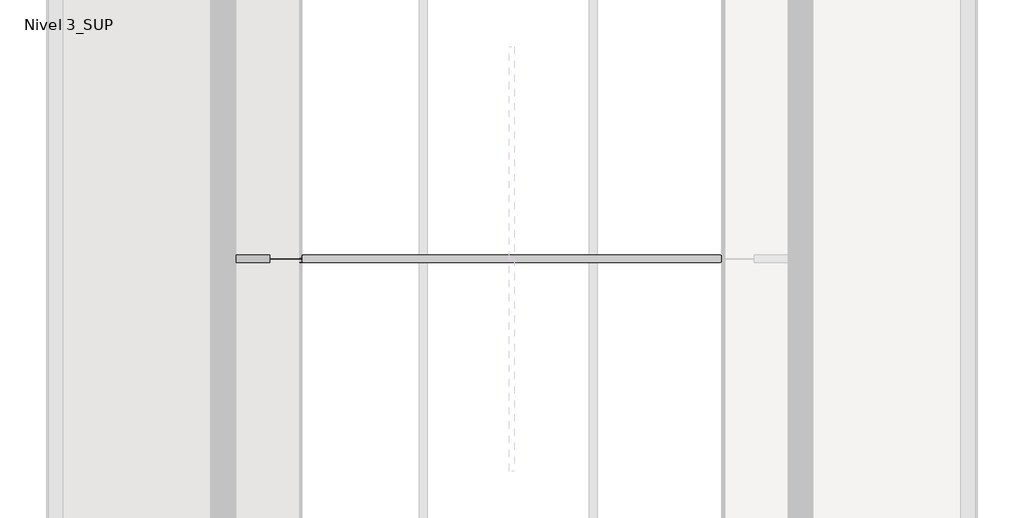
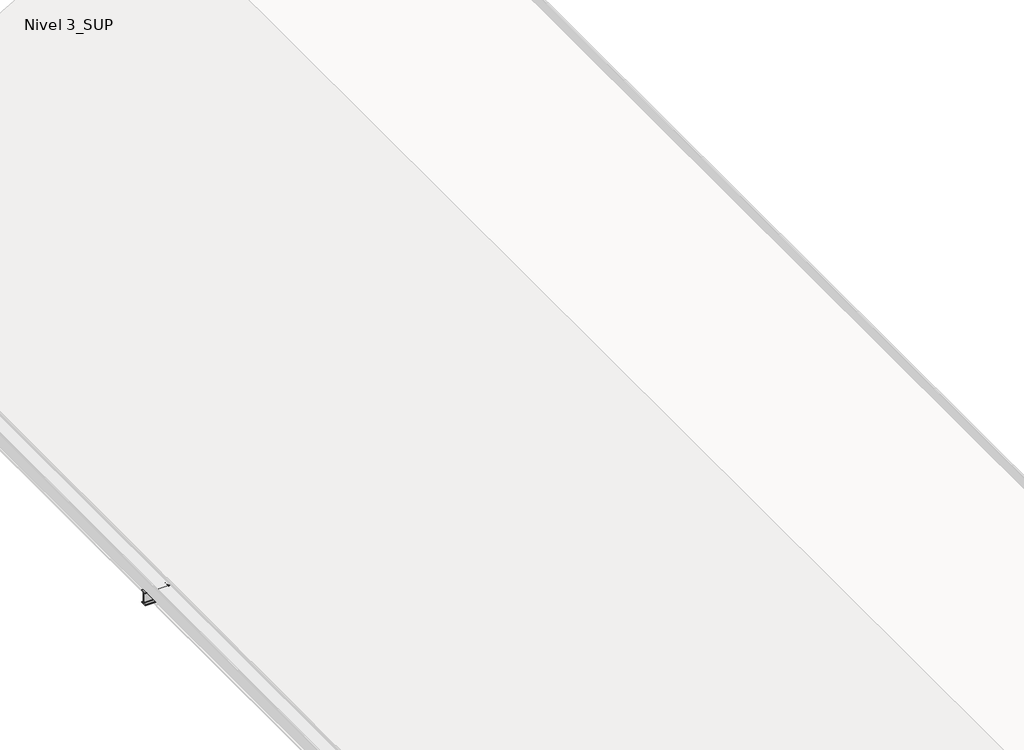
# One storey, part 6 of 10: 2 beams.
"""IFC4 building model written with IfcOpenShell, lengths in millimetres."""

from ifc_helpers import new_model, si_unit, point, frame, frame_2d, origin, place, context, project, spatial, polyline, circle_curve, ellipse_curve, trimmed, segment, composite_curve, outline, extrude, element, save
from ifc_brep_helpers import plane_surface, cylinder_surface, revolved_surface, advanced_brep

model = new_model("IFC4")

# Units and contexts
model_context = context("Model", 3, world=origin())
ifc_project = project(units=[si_unit("LENGTHUNIT", "METRE", prefix="MILLI")], contexts=[model_context])

# Site, building, storey
site = spatial("IfcSite", under=ifc_project)
building = spatial("IfcBuilding", under=site)
storey = spatial("IfcBuildingStorey", under=building, Name="Nivel 3_SUP", Elevation=13230.0)

# Beams
placement = place(None, origin())
element("IfcBeam", 1, ObjectType="IPN - Secciones en I con alas cónicas : IPN 160", at=placement, inside=storey, context=model_context, shape_type="SweptSolid", body=[
    extrude(outline(composite_curve([segment(polyline([(5981.6072273, 13390.0), (5981.6072273, 13386.3950593)]), True, "CONTINUOUS"), segment(trimmed(circle_curve(frame_2d((5977.8072273, 13386.3950593)), 3.8), [point((5981.6072273, 13386.3950593))], [point((5978.3340891, 13382.6317607))], False, "CARTESIAN"), True, "CONTINUOUS"), segment(polyline([(5978.3340891, 13382.6317607), (5953.1837459, 13379.1107126)]), True, "CONTINUOUS"), segment(trimmed(circle_curve(frame_2d((5954.0572273, 13372.8715596)), 6.3), [point((5953.1837459, 13379.1107126))], [point((5947.7572273, 13372.8715596))], True, "CARTESIAN"), True, "CONTINUOUS"), segment(polyline([(5947.7572273, 13372.8715596), (5947.7572273, 13247.1284404)]), True, "CONTINUOUS"), segment(trimmed(circle_curve(frame_2d((5954.0572273, 13247.1284404)), 6.3), [point((5947.7572273, 13247.1284404))], [point((5953.1837459, 13240.8892874))], True, "CARTESIAN"), True, "CONTINUOUS"), segment(polyline([(5953.1837459, 13240.8892874), (5978.3340891, 13237.3682393)]), True, "CONTINUOUS"), segment(trimmed(circle_curve(frame_2d((5977.8072273, 13233.6049407)), 3.8), [point((5978.3340891, 13237.3682393))], [point((5981.6072273, 13233.6049407))], False, "CARTESIAN"), True, "CONTINUOUS"), segment(polyline([(5981.6072273, 13233.6049407), (5981.6072273, 13230.0), (5907.6072273, 13230.0), (5907.6072273, 13233.6049407)]), True, "CONTINUOUS"), segment(trimmed(circle_curve(frame_2d((5911.4072273, 13233.6049407)), 3.8), [point((5907.6072273, 13233.6049407))], [point((5910.8803655, 13237.3682393))], False, "CARTESIAN"), True, "CONTINUOUS"), segment(polyline([(5910.8803655, 13237.3682393), (5936.0307088, 13240.8892874)]), True, "CONTINUOUS"), segment(trimmed(circle_curve(frame_2d((5935.1572273, 13247.1284404)), 6.3), [point((5936.0307088, 13240.8892874))], [point((5941.4572273, 13247.1284404))], True, "CARTESIAN"), True, "CONTINUOUS"), segment(polyline([(5941.4572273, 13247.1284404), (5941.4572273, 13372.8715596)]), True, "CONTINUOUS"), segment(trimmed(circle_curve(frame_2d((5935.1572273, 13372.8715596)), 6.3), [point((5941.4572273, 13372.8715596))], [point((5936.0307088, 13379.1107126))], True, "CARTESIAN"), True, "CONTINUOUS"), segment(polyline([(5936.0307088, 13379.1107126), (5910.8803655, 13382.6317607)]), True, "CONTINUOUS"), segment(trimmed(circle_curve(frame_2d((5911.4072273, 13386.3950593)), 3.8), [point((5910.8803655, 13382.6317607))], [point((5907.6072273, 13386.3950593))], False, "CARTESIAN"), True, "CONTINUOUS"), segment(polyline([(5907.6072273, 13386.3950593), (5907.6072273, 13390.0), (5981.6072273, 13390.0)]), True, "CONTINUOUS")], self_intersect=False)), frame((6033.4837907, 0.0, 0.0), z_axis=(1.0, 0.0, 0.0), x_axis=(0.0, 1.0, 0.0)), (0.0, 0.0, 1.0), 8899.073732),
])
element("IfcBeam", 2, ObjectType="IPN - Secciones en I con alas cónicas : IPN 160", at=placement, inside=storey, context=model_context, shape_type="AdvancedBrep", body=[
    advanced_brep(
    [(6390.9153459, 5907.6072273, 13240.5610738), (6389.1422546, 5907.6072273, 13243.6998227), (6387.2912749, 5910.8803655, 13246.9764506), (6385.5594462, 5936.0307088, 13250.0421559), (6382.4907166, 5941.4572273, 13255.4744601), (6387.2054153, 5941.4572273, 13247.1284404), (6390.7299368, 5936.0307088, 13240.8892874), (6390.9153459, 5933.6863257, 13240.5610738), (6649.0725288, 5907.6072273, 13386.3950593), (6641.7431841, 5907.6072273, 13386.3950593), (6627.4300365, 5910.8803655, 13382.6317607), (6614.038253, 5936.0307088, 13379.1107126), (6590.3085608, 5941.4572273, 13372.8715596), (6391.4963539, 5936.0307088, 13240.8892874), (6402.5409822, 5941.4572273, 13247.1284404), (6625.133057, 5941.4572273, 13372.8715596), (6636.1776853, 5936.0307088, 13379.1107126), (6642.4106895, 5910.8803655, 13382.6317607)],
    [
        (0, 1),
        (1, 2, circle_curve(frame((6389.1422546, 5911.4072273, 13243.6998227), z_axis=(-0.8706797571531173, 0.0, -0.4918503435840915), x_axis=(0.0, 1.0, 0.0)), 3.8)),
        (2, 3),
        (3, 4, circle_curve(frame((6382.4907166, 5935.1572273, 13255.4744601), z_axis=(0.8706797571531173, 0.0, 0.4918503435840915), x_axis=(0.0, 1.0, 0.0)), 6.3)),
        (4, 5),
        (5, 6, ellipse_curve(frame((6387.2054153, 5935.1572273, 13247.1284404), z_axis=(-0.8706797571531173, 0.0, -0.49185034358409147), x_axis=(0.49185034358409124, 0.0, -0.8706797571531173)), 7.2357258, 6.3)),
        (6, 7),
        (7, 0),
        (0, 8),
        (8, 9),
        (9, 1),
        (2, 10),
        (10, 11),
        (11, 3),
        (11, 12, ellipse_curve(frame((6590.3085608, 5935.1572273, 13372.8715596), z_axis=(-0.2542835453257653, 0.0, 0.9671297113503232), x_axis=(0.9671297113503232, 0.0, 0.2542835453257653)), 24.7754922, 6.3)),
        (12, 4),
        (7, 13),
        (13, 14, ellipse_curve(frame((6402.5409822, 5935.1572273, 13247.1284404), z_axis=(0.4918503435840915, 0.0, -0.8706797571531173), x_axis=(0.8706797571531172, 0.0, 0.49185034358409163)), 12.8087742, 6.3)),
        (14, 15),
        (15, 16, ellipse_curve(frame((6625.133057, 5935.1572273, 13372.8715596), z_axis=(0.4918503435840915, 0.0, -0.8706797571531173), x_axis=(0.8706797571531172, 0.0, 0.49185034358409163)), 12.8087742, 6.3)),
        (16, 17),
        (17, 8, ellipse_curve(frame((6649.0725288, 5911.4072273, 13386.3950593), z_axis=(-0.4918503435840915, 0.0, 0.8706797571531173), x_axis=(-0.8706797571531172, 0.0, -0.49185034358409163)), 7.7259273, 3.8)),
        (9, 10, ellipse_curve(frame((6641.7431841, 5911.4072273, 13386.3950593), z_axis=(0.2542835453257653, 0.0, -0.9671297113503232), x_axis=(-0.9671297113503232, 0.0, -0.2542835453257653)), 14.9439477, 3.8)),
        (6, 13),
        (5, 14),
        (17, 10),
        (12, 15),
        (11, 16),
    ],
    [
        plane_surface(frame((6351.5673184, 5944.6072273, 13310.2154543), z_axis=(-0.8706797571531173, 0.0, -0.49185034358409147), x_axis=(-0.49185034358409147, 0.0, 0.8706797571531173))),
        plane_surface(frame((6390.9153459, 5907.6072273, 13240.5610738), z_axis=(0.0, -1.0, 0.0), x_axis=(0.8706797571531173, 0.0, 0.4918503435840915))),
        plane_surface(frame((6386.2427677, 5926.1072273, 13248.8325315), z_axis=(-0.4870999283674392, -0.13864784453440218, 0.862270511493), x_axis=(0.8706797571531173, 0.0, 0.4918503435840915))),
        revolved_surface(polyline([(6611.171018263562, 5941.4572273, 13384.656842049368), (6382.4907166, 5941.4572273, 13255.4744601)]), (6382.4907166, 5935.1572273, 13255.4744601), (0.8706797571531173, 0.0, 0.4918503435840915)),
        plane_surface(frame((6390.9153459, 5981.6072273, 13240.5610738), z_axis=(0.4918503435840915, 0.0, -0.8706797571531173), x_axis=(0.8706797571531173, 0.0, 0.4918503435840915))),
        cylinder_surface(frame((6389.1422546, 5911.4072273, 13243.6998227), z_axis=(-0.8706797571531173, 0.0, -0.4918503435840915), x_axis=(0.0, 1.0, 0.0)), 3.8),
        plane_surface(frame((6033.4837907, 5910.8803655, 13237.3682393), z_axis=(0.0, 0.13864784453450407, -0.9903417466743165), x_axis=(1.0, 0.0, 0.0))),
        cylinder_surface(frame((10483.0206567, 5935.1572273, 13247.1284404), z_axis=(1.0, 0.0, 0.0), x_axis=(0.0, 1.0, 0.0)), 6.3),
        revolved_surface(polyline([(6627.290448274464, 5915.2072273, 13386.3950593), (6656.195919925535, 5915.2072273, 13386.3950593)]), (10483.0206567, 5911.4072273, 13386.3950593), (-1.0, 0.0, 0.0)),
        plane_surface(frame((6033.4837907, 5941.4572273, 13247.1284404), z_axis=(0.0, 1.0, 0.0), x_axis=(1.0, 0.0, 0.0))),
        cylinder_surface(frame((10483.0206567, 5935.1572273, 13372.8715596), z_axis=(1.0, 0.0, 0.0), x_axis=(0.0, 1.0, 0.0)), 6.3),
        plane_surface(frame((6033.4837907, 5936.0307088, 13379.1107126), z_axis=(0.0, 0.13864784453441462, 0.9903417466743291), x_axis=(1.0, 0.0, 0.0))),
    ],
    [
        (0, [[1, 2, 3, 4, 5, 6, 7, 8]]),
        (1, [[-1, 9, 10, 11]]),
        (2, [[-3, 12, 13, 14]]),
        (3, [[-4, -14, 15, 16]]),
        (4, [[-8, 17, 18, 19, 20, 21, 22, -9]]),
        (5, [[-2, -11, 23, -12]]),
        (6, [[24, -17, -7]]),
        (7, [[-24, -6, 25, -18]]),
        (8, [[26, -23, -10, -22]]),
        (9, [[-25, -5, -16, 27, -19]]),
        (10, [[-27, -15, 28, -20]]),
        (11, [[-28, -13, -26, -21]]),
    ],
),
    advanced_brep(
    [(10551.6053728, 5981.6072273, 15590.9508726), (10549.8322815, 5981.6072273, 15594.0896215), (10547.9813018, 5978.3340891, 15597.3662495), (10546.2494731, 5953.1837459, 15600.4319547), (10543.1807435, 5947.7572273, 15605.864259), (10551.6053728, 5947.7572273, 15590.9508726), (10420.8520301, 5978.3340891, 15525.5504349), (10424.3730781, 5953.1837459, 15531.5835105), (10417.0887314, 5981.6072273, 15519.1022796), (10417.0887314, 5981.6072273, 15514.9619045), (10430.6122311, 5947.7572273, 15522.6013815), (10424.3730781, 5953.1837459, 15519.07686), (10420.8520301, 5978.3340891, 15517.0878064), (10430.6122311, 5947.7572273, 15542.2738734)],
    [
        (0, 1),
        (1, 2, circle_curve(frame((10549.8322815, 5977.8072273, 15594.0896215), z_axis=(0.8706797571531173, 0.0, 0.4918503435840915), x_axis=(0.0, 1.0, 0.0)), 3.8)),
        (2, 3),
        (3, 4, circle_curve(frame((10543.1807435, 5954.0572273, 15605.864259), z_axis=(-0.8706797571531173, 0.0, -0.4918503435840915), x_axis=(0.0, 1.0, 0.0)), 6.3)),
        (4, 5),
        (5, 0),
        (2, 6),
        (6, 7),
        (7, 3),
        (1, 8),
        (8, 6, ellipse_curve(frame((10417.0887314, 5977.8072273, 15519.1022796), z_axis=(0.8636695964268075, 0.0, -0.5040583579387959), x_axis=(-0.5040583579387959, 0.0, -0.8636695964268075)), 7.5388096, 3.8)),
        (0, 9),
        (9, 8),
        (5, 10),
        (10, 11, ellipse_curve(frame((10430.6122311, 5954.0572273, 15522.6013815), z_axis=(0.4918503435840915, 0.0, -0.8706797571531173), x_axis=(0.8706797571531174, 0.0, 0.49185034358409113)), 7.2357258, 6.3)),
        (11, 12),
        (12, 9, ellipse_curve(frame((10417.0887314, 5977.8072273, 15514.9619045), z_axis=(-0.4918503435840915, 0.0, 0.8706797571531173), x_axis=(-0.8706797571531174, 0.0, -0.49185034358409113)), 4.3644061, 3.8)),
        (7, 13, ellipse_curve(frame((10430.6122311, 5954.0572273, 15542.2738734), z_axis=(-0.8636695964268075, 0.0, 0.5040583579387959), x_axis=(0.5040583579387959, 0.0, 0.8636695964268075)), 12.4985528, 6.3)),
        (13, 4),
        (6, 12),
        (11, 7),
        (10, 13),
    ],
    [
        plane_surface(frame((10512.2573454, 5944.6072273, 15660.6052532), z_axis=(0.8706797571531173, 0.0, 0.49185034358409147), x_axis=(-0.49185034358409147, 0.0, 0.8706797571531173))),
        plane_surface(frame((6386.2427677, 5963.1072273, 13248.8325315), z_axis=(-0.487099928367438, 0.13864784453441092, 0.8622705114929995), x_axis=(0.8706797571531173, 0.0, 0.4918503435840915))),
        cylinder_surface(frame((6389.1422546, 5977.8072273, 13243.6998227), z_axis=(-0.8706797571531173, 0.0, -0.4918503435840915), x_axis=(0.0, 1.0, 0.0)), 3.8),
        plane_surface(frame((6389.1422546, 5981.6072273, 13243.6998227), z_axis=(0.0, 1.0, 0.0), x_axis=(0.8706797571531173, 0.0, 0.4918503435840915))),
        plane_surface(frame((6390.9153459, 5981.6072273, 13240.5610738), z_axis=(0.4918503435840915, 0.0, -0.8706797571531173), x_axis=(0.8706797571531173, 0.0, 0.4918503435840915))),
        revolved_surface(polyline([(10543.180743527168, 5960.3572273, 15605.8642589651), (10421.213573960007, 5960.3572273, 15536.964535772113)]), (6382.4907166, 5954.0572273, 13255.4744601), (0.8706797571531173, 0.0, 0.4918503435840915)),
        plane_surface(frame((10420.8520301, 5978.3340891, 13390.0), z_axis=(-0.9903417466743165, -0.13864784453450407, 0.0), x_axis=(0.0, 0.0, 1.0))),
        cylinder_surface(frame((10430.6122311, 5954.0572273, 14544.0), z_axis=(0.0, 0.0, 1.0), x_axis=(0.0, -1.0, 0.0)), 6.3),
        plane_surface(frame((10430.6122311, 5947.7572273, 13390.0), z_axis=(0.0, -1.0, 0.0), x_axis=(0.0, 0.0, 1.0))),
        revolved_surface(polyline([(10417.0887314, 5974.0072273, 15512.591238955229), (10417.0887314, 5974.0072273, 15525.61332024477)]), (10417.0887314, 5977.8072273, 14544.0), (0.0, 0.0, -1.0)),
    ],
    [
        (0, [[1, 2, 3, 4, 5, 6]]),
        (1, [[-3, 7, 8, 9]]),
        (2, [[-2, 10, 11, -7]]),
        (3, [[-1, 12, 13, -10]]),
        (4, [[-6, 14, 15, 16, 17, -12]]),
        (5, [[-4, -9, 18, 19]]),
        (6, [[20, -16, 21, -8]]),
        (7, [[-21, -15, 22, -18]]),
        (8, [[-22, -14, -5, -19]]),
        (9, [[-20, -11, -13, -17]]),
    ],
),
    advanced_brep(
    [(6313.9923823, 5981.6072273, 13376.731086), (6312.2192909, 5981.6072273, 13379.8698349), (6323.7703264, 5981.6072273, 13386.3950593), (6331.0996711, 5981.6072273, 13386.3950593), (6317.5751907, 5953.1837459, 13370.3887528), (6315.843362, 5978.3340891, 13373.4544581), (6332.0891402, 5978.3340891, 13382.6317607), (6333.0149153, 5953.1837459, 13379.1107126), (6320.6439202, 5947.7572273, 13364.9564486), (6334.6553508, 5947.7572273, 13372.8715596), (6316.1726436, 5947.7572273, 13372.8715596), (6312.6481221, 5953.1837459, 13379.1107126), (6312.2192909, 5958.6060482, 13379.8698349), (6317.1084871, 5978.3340891, 13382.6317607)],
    [
        (0, 1),
        (1, 2),
        (2, 3),
        (3, 0),
        (4, 5),
        (5, 6),
        (6, 7),
        (7, 4),
        (8, 4, circle_curve(frame((6320.6439202, 5954.0572273, 13364.9564486), z_axis=(-0.8706797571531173, 0.0, -0.4918503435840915), x_axis=(0.0, 1.0, 0.0)), 6.3)),
        (7, 9, ellipse_curve(frame((6334.6553508, 5954.0572273, 13372.8715596), z_axis=(0.967129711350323, 0.0, 0.2542835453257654), x_axis=(-0.25428354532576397, 0.0, 0.9671297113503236)), 6.514121, 6.3)),
        (9, 8),
        (0, 5, circle_curve(frame((6313.9923823, 5977.8072273, 13376.731086), z_axis=(-0.8706797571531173, 0.0, -0.4918503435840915), x_axis=(0.0, 1.0, 0.0)), 3.8)),
        (8, 10),
        (10, 11, ellipse_curve(frame((6316.1726436, 5954.0572273, 13372.8715596), z_axis=(-0.8706797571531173, 0.0, -0.49185034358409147), x_axis=(0.49185034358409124, 0.0, -0.8706797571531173)), 7.2357258, 6.3)),
        (11, 12),
        (12, 1),
        (12, 13),
        (13, 2, ellipse_curve(frame((6323.7703264, 5977.8072273, 13386.3950593), z_axis=(0.4918503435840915, 0.0, -0.8706797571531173), x_axis=(-0.8706797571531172, 0.0, -0.49185034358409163)), 7.7259273, 3.8)),
        (3, 6, ellipse_curve(frame((6331.0996711, 5977.8072273, 13386.3950593), z_axis=(-0.967129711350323, 0.0, -0.2542835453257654), x_axis=(0.25428354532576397, 0.0, -0.9671297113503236)), 3.9291524, 3.8)),
        (6, 13),
        (11, 7),
        (10, 9),
    ],
    [
        plane_surface(frame((6312.2192909, 5981.6072273, 13379.8698349), z_axis=(0.0, 1.0, 0.0), x_axis=(0.8706797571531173, 0.0, 0.4918503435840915))),
        plane_surface(frame((6316.8918692, 5963.1072273, 13371.5983772), z_axis=(0.48709992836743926, 0.13864784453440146, -0.8622705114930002), x_axis=(0.8706797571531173, 0.0, 0.4918503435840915))),
        revolved_surface(polyline([(6336.097574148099, 5960.3572273, 13373.686277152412), (6320.6439202, 5960.3572273, 13364.9564486)]), (6320.6439202, 5954.0572273, 13364.9564486), (0.8706797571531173, 0.0, 0.4918503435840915)),
        plane_surface(frame((6351.5673184, 5944.6072273, 13310.2154543), z_axis=(-0.8706797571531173, 0.0, -0.49185034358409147), x_axis=(-0.49185034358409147, 0.0, 0.8706797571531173))),
        plane_surface(frame((6312.2192909, 5907.6072273, 13379.8698349), z_axis=(-0.4918503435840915, 0.0, 0.8706797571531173), x_axis=(0.8706797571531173, 0.0, 0.4918503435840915))),
        cylinder_surface(frame((6313.9923823, 5977.8072273, 13376.731086), z_axis=(-0.8706797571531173, 0.0, -0.4918503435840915), x_axis=(0.0, 1.0, 0.0)), 3.8),
        plane_surface(frame((6033.4837907, 5978.3340891, 13382.6317607), z_axis=(0.0, -0.13864784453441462, 0.9903417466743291), x_axis=(1.0, 0.0, 0.0))),
        cylinder_surface(frame((10483.0206567, 5954.0572273, 13372.8715596), z_axis=(1.0, 0.0, 0.0), x_axis=(0.0, 1.0, 0.0)), 6.3),
        plane_surface(frame((6033.4837907, 5947.7572273, 13372.8715596), z_axis=(0.0, -1.0, 0.0), x_axis=(1.0, 0.0, 0.0))),
        revolved_surface(polyline([(6317.043517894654, 5981.6072273, 13386.3950593), (6332.098789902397, 5981.6072273, 13386.3950593)]), (10483.0206567, 5977.8072273, 13386.3950593), (-1.0, 0.0, 0.0)),
    ],
    [
        (0, [[1, 2, 3, 4]]),
        (1, [[5, 6, 7, 8]]),
        (2, [[9, -8, 10, 11]]),
        (3, [[-1, 12, -5, -9, 13, 14, 15, 16]]),
        (4, [[-16, 17, 18, -2]]),
        (5, [[-12, -4, 19, -6]]),
        (6, [[20, -17, -15, 21, -7]]),
        (7, [[-21, -14, 22, -10]]),
        (8, [[-22, -13, -11]]),
        (9, [[-20, -19, -3, -18]]),
    ],
),
    advanced_brep(
    [(10413.4837907, 5981.6072273, 15692.5495499), (10413.4837907, 5978.3340891, 15688.2272964), (6345.1324915, 5978.3340891, 13390.0), (6337.4811832, 5981.6072273, 13390.0), (10413.4837907, 5947.7572273, 15677.0174331), (10413.4837907, 5947.7572273, 15532.5979515), (6620.6295447, 5947.7572273, 13390.0), (6364.9763347, 5947.7572273, 13390.0), (10413.4837907, 5978.3340891, 15521.3880882), (10413.4837907, 5981.6072273, 15517.0658347), (6648.1246962, 5981.6072273, 13390.0), (6640.4733878, 5978.3340891, 13390.0), (10413.4837907, 5907.6072273, 15517.0658347), (10413.4837907, 5910.8803655, 15521.3880882), (6640.4733878, 5910.8803655, 13390.0), (6648.1246962, 5907.6072273, 13390.0), (10413.4837907, 5941.4572273, 15532.5979515), (10413.4837907, 5941.4572273, 15677.0174331), (6364.9763347, 5941.4572273, 13390.0), (6620.6295447, 5941.4572273, 13390.0), (10413.4837907, 5910.8803655, 15688.2272964), (10413.4837907, 5907.6072273, 15692.5495499), (6337.4811832, 5907.6072273, 13390.0), (6345.1324915, 5910.8803655, 13390.0), (10413.4837907, 5981.6072273, 15696.6899249), (6330.1518385, 5981.6072273, 13390.0), (10413.4837907, 5953.1837459, 15684.1832745), (6352.2912708, 5953.1837459, 13390.0), (10413.4837907, 5953.1837459, 15525.4321101), (6633.3146085, 5953.1837459, 13390.0), (10413.4837907, 5981.6072273, 15512.9254597), (6655.4540409, 5981.6072273, 13390.0), (10413.4837907, 5907.6072273, 15512.9254597), (6655.4540409, 5907.6072273, 13390.0), (10413.4837907, 5936.0307088, 15525.4321101), (6633.3146085, 5936.0307088, 13390.0), (10413.4837907, 5936.0307088, 15684.1832745), (6352.2912708, 5936.0307088, 13390.0), (10413.4837907, 5907.6072273, 15696.6899249), (6330.1518385, 5907.6072273, 13390.0)],
    [
        (0, 1, ellipse_curve(frame((10413.4837907, 5977.8072273, 15692.5495499), z_axis=(-1.0, 0.0, 0.0), x_axis=(0.0, 0.0, -1.0)), 4.3644061, 3.8)),
        (1, 2),
        (2, 3, ellipse_curve(frame((6337.4811832, 5977.8072273, 13390.0), z_axis=(0.0, 0.0, 1.0), x_axis=(-1.0, 0.0, 0.0)), 7.7259273, 3.8)),
        (3, 0),
        (4, 5),
        (5, 6),
        (6, 7),
        (7, 4),
        (8, 9, ellipse_curve(frame((10413.4837907, 5977.8072273, 15517.0658347), z_axis=(-1.0, 0.0, 0.0), x_axis=(0.0, 0.0, -1.0)), 4.3644061, 3.8)),
        (9, 10),
        (10, 11, ellipse_curve(frame((6648.1246962, 5977.8072273, 13390.0), z_axis=(0.0, 0.0, 1.0), x_axis=(-1.0, 0.0, 0.0)), 7.7259273, 3.8)),
        (11, 8),
        (12, 13, ellipse_curve(frame((10413.4837907, 5911.4072273, 15517.0658347), z_axis=(-1.0, 0.0, 0.0), x_axis=(0.0, 0.0, -1.0)), 4.3644061, 3.8)),
        (13, 14),
        (14, 15, ellipse_curve(frame((6648.1246962, 5911.4072273, 13390.0), z_axis=(0.0, 0.0, 1.0), x_axis=(-1.0, 0.0, 0.0)), 7.7259273, 3.8)),
        (15, 12),
        (16, 17),
        (17, 18),
        (18, 19),
        (19, 16),
        (20, 21, ellipse_curve(frame((10413.4837907, 5911.4072273, 15692.5495499), z_axis=(-1.0, 0.0, 0.0), x_axis=(0.0, 0.0, -1.0)), 4.3644061, 3.8)),
        (21, 22),
        (22, 23, ellipse_curve(frame((6337.4811832, 5911.4072273, 13390.0), z_axis=(0.0, 0.0, 1.0), x_axis=(-1.0, 0.0, 0.0)), 7.7259273, 3.8)),
        (23, 20),
        (24, 0),
        (3, 25),
        (25, 24),
        (1, 26),
        (26, 27),
        (27, 2),
        (26, 4, ellipse_curve(frame((10413.4837907, 5954.0572273, 15677.0174331), z_axis=(1.0, 0.0, 0.0), x_axis=(0.0, 0.0, 1.0)), 7.2357258, 6.3)),
        (7, 27, ellipse_curve(frame((6364.9763347, 5954.0572273, 13390.0), z_axis=(0.0, 0.0, -1.0), x_axis=(1.0, 0.0, 0.0)), 12.8087742, 6.3)),
        (5, 28, ellipse_curve(frame((10413.4837907, 5954.0572273, 15532.5979515), z_axis=(1.0, 0.0, 0.0), x_axis=(0.0, 0.0, 1.0)), 7.2357258, 6.3)),
        (28, 29),
        (29, 6, ellipse_curve(frame((6620.6295447, 5954.0572273, 13390.0), z_axis=(0.0, 0.0, -1.0), x_axis=(1.0, 0.0, 0.0)), 12.8087742, 6.3)),
        (28, 8),
        (11, 29),
        (9, 30),
        (30, 31),
        (31, 10),
        (30, 32),
        (32, 33),
        (33, 31),
        (32, 12),
        (15, 33),
        (13, 34),
        (34, 35),
        (35, 14),
        (34, 16, ellipse_curve(frame((10413.4837907, 5935.1572273, 15532.5979515), z_axis=(1.0, 0.0, 0.0), x_axis=(0.0, 0.0, 1.0)), 7.2357258, 6.3)),
        (19, 35, ellipse_curve(frame((6620.6295447, 5935.1572273, 13390.0), z_axis=(0.0, 0.0, -1.0), x_axis=(1.0, 0.0, 0.0)), 12.8087742, 6.3)),
        (17, 36, ellipse_curve(frame((10413.4837907, 5935.1572273, 15677.0174331), z_axis=(1.0, 0.0, 0.0), x_axis=(0.0, 0.0, 1.0)), 7.2357258, 6.3)),
        (36, 37),
        (37, 18, ellipse_curve(frame((6364.9763347, 5935.1572273, 13390.0), z_axis=(0.0, 0.0, -1.0), x_axis=(1.0, 0.0, 0.0)), 12.8087742, 6.3)),
        (36, 20),
        (23, 37),
        (21, 38),
        (38, 39),
        (39, 22),
        (38, 24),
        (25, 39),
    ],
    [
        cylinder_surface(frame((6313.9923823, 5977.8072273, 13376.731086), z_axis=(-0.8706797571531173, 0.0, -0.4918503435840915), x_axis=(0.0, 1.0, 0.0)), 3.8),
        plane_surface(frame((6320.6439202, 5947.7572273, 13364.9564486), z_axis=(0.0, 1.0, 0.0), x_axis=(0.8706797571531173, 0.0, 0.4918503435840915))),
        cylinder_surface(frame((6389.1422546, 5977.8072273, 13243.6998227), z_axis=(-0.8706797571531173, 0.0, -0.4918503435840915), x_axis=(0.0, 1.0, 0.0)), 3.8),
        cylinder_surface(frame((6389.1422546, 5911.4072273, 13243.6998227), z_axis=(-0.8706797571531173, 0.0, -0.4918503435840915), x_axis=(0.0, 1.0, 0.0)), 3.8),
        plane_surface(frame((6382.4907166, 5941.4572273, 13255.4744601), z_axis=(0.0, -1.0, 0.0), x_axis=(0.8706797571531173, 0.0, 0.4918503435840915))),
        cylinder_surface(frame((6313.9923823, 5911.4072273, 13376.731086), z_axis=(-0.8706797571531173, 0.0, -0.4918503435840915), x_axis=(0.0, 1.0, 0.0)), 3.8),
        plane_surface(frame((6312.2192909, 5981.6072273, 13379.8698349), z_axis=(0.0, 1.0, 0.0), x_axis=(0.8706797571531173, 0.0, 0.4918503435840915))),
        plane_surface(frame((6316.8918692, 5963.1072273, 13371.5983772), z_axis=(0.48709992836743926, 0.13864784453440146, -0.8622705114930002), x_axis=(0.8706797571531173, 0.0, 0.4918503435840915))),
        revolved_surface(polyline([(10416.582447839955, 5960.3572273, 15678.767876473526), (6355.266217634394, 5960.3572273, 13384.514717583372)]), (6320.6439202, 5954.0572273, 13364.9564486), (0.8706797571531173, 0.0, 0.4918503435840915)),
        revolved_surface(polyline([(10416.582447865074, 5960.3572273, 15534.348394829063), (6610.919427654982, 5960.3572273, 13384.514717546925)]), (6382.4907166, 5954.0572273, 13255.4744601), (0.8706797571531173, 0.0, 0.4918503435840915)),
        plane_surface(frame((6386.2427677, 5963.1072273, 13248.8325315), z_axis=(-0.487099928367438, 0.13864784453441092, 0.8622705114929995), x_axis=(0.8706797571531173, 0.0, 0.4918503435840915))),
        plane_surface(frame((6389.1422546, 5981.6072273, 13243.6998227), z_axis=(0.0, 1.0, 0.0), x_axis=(0.8706797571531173, 0.0, 0.4918503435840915))),
        plane_surface(frame((6390.9153459, 5981.6072273, 13240.5610738), z_axis=(0.4918503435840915, 0.0, -0.8706797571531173), x_axis=(0.8706797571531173, 0.0, 0.4918503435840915))),
        plane_surface(frame((6390.9153459, 5907.6072273, 13240.5610738), z_axis=(0.0, -1.0, 0.0), x_axis=(0.8706797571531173, 0.0, 0.4918503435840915))),
        plane_surface(frame((6386.2427677, 5926.1072273, 13248.8325315), z_axis=(-0.4870999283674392, -0.13864784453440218, 0.862270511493), x_axis=(0.8706797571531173, 0.0, 0.4918503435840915))),
        revolved_surface(polyline([(10416.582447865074, 5941.4572273, 15534.348394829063), (6610.919427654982, 5941.4572273, 13384.514717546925)]), (6382.4907166, 5935.1572273, 13255.4744601), (0.8706797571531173, 0.0, 0.4918503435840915)),
        revolved_surface(polyline([(10416.582447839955, 5941.4572273, 15678.767876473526), (6355.266217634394, 5941.4572273, 13384.514717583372)]), (6320.6439202, 5935.1572273, 13364.9564486), (0.8706797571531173, 0.0, 0.4918503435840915)),
        plane_surface(frame((6316.8918692, 5926.1072273, 13371.5983772), z_axis=(0.487099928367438, -0.13864784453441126, -0.8622705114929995), x_axis=(0.8706797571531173, 0.0, 0.4918503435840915))),
        plane_surface(frame((6313.9923823, 5907.6072273, 13376.731086), z_axis=(0.0, -1.0, 0.0), x_axis=(0.8706797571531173, 0.0, 0.4918503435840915))),
        plane_surface(frame((6312.2192909, 5907.6072273, 13379.8698349), z_axis=(-0.4918503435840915, 0.0, 0.8706797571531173), x_axis=(0.8706797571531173, 0.0, 0.4918503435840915))),
        plane_surface(frame((10413.4837907, 5907.6072273, 13390.0), z_axis=(1.0, 0.0, 0.0), x_axis=(0.0, 0.0, 1.0))),
        plane_surface(frame((6033.4837907, 5907.6072273, 13390.0), z_axis=(0.0, 0.0, -1.0), x_axis=(1.0, 0.0, 0.0))),
    ],
    [
        (0, [[1, 2, 3, 4]]),
        (1, [[5, 6, 7, 8]]),
        (2, [[9, 10, 11, 12]]),
        (3, [[13, 14, 15, 16]]),
        (4, [[17, 18, 19, 20]]),
        (5, [[21, 22, 23, 24]]),
        (6, [[25, -4, 26, 27]]),
        (7, [[28, 29, 30, -2]]),
        (8, [[31, -8, 32, -29]]),
        (9, [[33, 34, 35, -6]]),
        (10, [[36, -12, 37, -34]]),
        (11, [[38, 39, 40, -10]]),
        (12, [[41, 42, 43, -39]]),
        (13, [[44, -16, 45, -42]]),
        (14, [[46, 47, 48, -14]]),
        (15, [[49, -20, 50, -47]]),
        (16, [[51, 52, 53, -18]]),
        (17, [[54, -24, 55, -52]]),
        (18, [[56, 57, 58, -22]]),
        (19, [[59, -27, 60, -57]]),
        (20, [[-25, -59, -56, -21, -54, -51, -17, -49, -46, -13, -44, -41, -38, -9, -36, -33, -5, -31, -28, -1]]),
        (21, [[-26, -3, -30, -32, -7, -35, -37, -11, -40, -43, -45, -15, -48, -50, -19, -53, -55, -23, -58, -60]]),
    ],
),
    advanced_brep(
    [(6385.5594462, 5953.1837459, 13250.0421559), (6382.4907166, 5947.7572273, 13255.4744601), (6590.3085608, 5947.7572273, 13372.8715596), (6614.038253, 5953.1837459, 13379.1107126), (6387.2912749, 5978.3340891, 13246.9764506), (6627.4300365, 5978.3340891, 13382.6317607), (6390.9153459, 5981.6072273, 13240.5610738), (6389.1422546, 5981.6072273, 13243.6998227), (6641.7431841, 5981.6072273, 13386.3950593), (6649.0725288, 5981.6072273, 13386.3950593), (6390.9153459, 5955.5281289, 13240.5610738), (6642.4106895, 5978.3340891, 13382.6317607), (6636.1776853, 5953.1837459, 13379.1107126), (6625.133057, 5947.7572273, 13372.8715596), (6402.5409822, 5947.7572273, 13247.1284404), (6391.4963539, 5953.1837459, 13240.8892874), (6390.7299368, 5953.1837459, 13240.8892874), (6387.2054153, 5947.7572273, 13247.1284404)],
    [
        (0, 1, circle_curve(frame((6382.4907166, 5954.0572273, 13255.4744601), z_axis=(-0.8706797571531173, 0.0, -0.4918503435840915), x_axis=(0.0, 1.0, 0.0)), 6.3)),
        (1, 2),
        (2, 3, ellipse_curve(frame((6590.3085608, 5954.0572273, 13372.8715596), z_axis=(-0.2542835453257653, 0.0, 0.9671297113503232), x_axis=(0.9671297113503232, 0.0, 0.2542835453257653)), 24.7754922, 6.3)),
        (3, 0),
        (4, 0),
        (3, 5),
        (5, 4),
        (6, 7),
        (7, 8),
        (8, 9),
        (9, 6),
        (10, 6),
        (9, 11, ellipse_curve(frame((6649.0725288, 5977.8072273, 13386.3950593), z_axis=(-0.4918503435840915, 0.0, 0.8706797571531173), x_axis=(-0.8706797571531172, 0.0, -0.49185034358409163)), 7.7259273, 3.8)),
        (11, 12),
        (12, 13, ellipse_curve(frame((6625.133057, 5954.0572273, 13372.8715596), z_axis=(0.4918503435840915, 0.0, -0.8706797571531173), x_axis=(0.8706797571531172, 0.0, 0.49185034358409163)), 12.8087742, 6.3)),
        (13, 14),
        (14, 15, ellipse_curve(frame((6402.5409822, 5954.0572273, 13247.1284404), z_axis=(0.4918503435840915, 0.0, -0.8706797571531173), x_axis=(0.8706797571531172, 0.0, 0.49185034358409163)), 12.8087742, 6.3)),
        (15, 10),
        (4, 7, circle_curve(frame((6389.1422546, 5977.8072273, 13243.6998227), z_axis=(-0.8706797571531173, 0.0, -0.4918503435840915), x_axis=(0.0, 1.0, 0.0)), 3.8)),
        (10, 16),
        (16, 17, ellipse_curve(frame((6387.2054153, 5954.0572273, 13247.1284404), z_axis=(-0.8706797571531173, 0.0, -0.49185034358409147), x_axis=(0.49185034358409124, 0.0, -0.8706797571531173)), 7.2357258, 6.3)),
        (17, 1),
        (5, 8, ellipse_curve(frame((6641.7431841, 5977.8072273, 13386.3950593), z_axis=(0.2542835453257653, 0.0, -0.9671297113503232), x_axis=(-0.9671297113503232, 0.0, -0.2542835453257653)), 14.9439477, 3.8)),
        (5, 11),
        (14, 17),
        (16, 15),
        (3, 12),
        (2, 13),
    ],
    [
        revolved_surface(polyline([(6611.171018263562, 5960.3572273, 13384.656842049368), (6382.4907166, 5960.3572273, 13255.4744601)]), (6382.4907166, 5954.0572273, 13255.4744601), (0.8706797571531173, 0.0, 0.4918503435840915)),
        plane_surface(frame((6386.2427677, 5963.1072273, 13248.8325315), z_axis=(-0.487099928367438, 0.13864784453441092, 0.8622705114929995), x_axis=(0.8706797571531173, 0.0, 0.4918503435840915))),
        plane_surface(frame((6389.1422546, 5981.6072273, 13243.6998227), z_axis=(0.0, 1.0, 0.0), x_axis=(0.8706797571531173, 0.0, 0.4918503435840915))),
        plane_surface(frame((6390.9153459, 5981.6072273, 13240.5610738), z_axis=(0.4918503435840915, 0.0, -0.8706797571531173), x_axis=(0.8706797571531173, 0.0, 0.4918503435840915))),
        plane_surface(frame((6351.5673184, 5944.6072273, 13310.2154543), z_axis=(-0.8706797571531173, 0.0, -0.49185034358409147), x_axis=(-0.49185034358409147, 0.0, 0.8706797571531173))),
        cylinder_surface(frame((6389.1422546, 5977.8072273, 13243.6998227), z_axis=(-0.8706797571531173, 0.0, -0.4918503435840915), x_axis=(0.0, 1.0, 0.0)), 3.8),
        revolved_surface(polyline([(6627.290448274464, 5981.6072273, 13386.3950593), (6656.195919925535, 5981.6072273, 13386.3950593)]), (10483.0206567, 5977.8072273, 13386.3950593), (-1.0, 0.0, 0.0)),
        cylinder_surface(frame((10483.0206567, 5954.0572273, 13247.1284404), z_axis=(1.0, 0.0, 0.0), x_axis=(0.0, 1.0, 0.0)), 6.3),
        plane_surface(frame((6033.4837907, 5953.1837459, 13240.8892874), z_axis=(0.0, -0.13864784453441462, -0.9903417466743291), x_axis=(1.0, 0.0, 0.0))),
        plane_surface(frame((6033.4837907, 5978.3340891, 13382.6317607), z_axis=(0.0, -0.13864784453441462, 0.9903417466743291), x_axis=(1.0, 0.0, 0.0))),
        cylinder_surface(frame((10483.0206567, 5954.0572273, 13372.8715596), z_axis=(1.0, 0.0, 0.0), x_axis=(0.0, 1.0, 0.0)), 6.3),
        plane_surface(frame((6033.4837907, 5947.7572273, 13372.8715596), z_axis=(0.0, -1.0, 0.0), x_axis=(1.0, 0.0, 0.0))),
    ],
    [
        (0, [[1, 2, 3, 4]]),
        (1, [[5, -4, 6, 7]]),
        (2, [[8, 9, 10, 11]]),
        (3, [[12, -11, 13, 14, 15, 16, 17, 18]]),
        (4, [[-1, -5, 19, -8, -12, 20, 21, 22]]),
        (5, [[-19, -7, 23, -9]]),
        (6, [[24, -13, -10, -23]]),
        (7, [[25, -21, 26, -17]]),
        (8, [[-26, -20, -18]]),
        (9, [[-24, -6, 27, -14]]),
        (10, [[-27, -3, 28, -15]]),
        (11, [[-28, -2, -22, -25, -16]]),
    ],
),
    advanced_brep(
    [(6317.5751907, 5936.0307088, 13370.3887528), (6320.6439202, 5941.4572273, 13364.9564486), (6334.6553508, 5941.4572273, 13372.8715596), (6333.0149153, 5936.0307088, 13379.1107126), (6315.843362, 5910.8803655, 13373.4544581), (6332.0891402, 5910.8803655, 13382.6317607), (6312.2192909, 5907.6072273, 13379.8698349), (6313.9923823, 5907.6072273, 13376.731086), (6331.0996711, 5907.6072273, 13386.3950593), (6323.7703264, 5907.6072273, 13386.3950593), (6312.2192909, 5930.6084065, 13379.8698349), (6317.1084871, 5910.8803655, 13382.6317607), (6312.6481221, 5936.0307088, 13379.1107126), (6316.1726436, 5941.4572273, 13372.8715596)],
    [
        (0, 1, circle_curve(frame((6320.6439202, 5935.1572273, 13364.9564486), z_axis=(-0.8706797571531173, 0.0, -0.4918503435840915), x_axis=(0.0, 1.0, 0.0)), 6.3)),
        (1, 2),
        (2, 3, ellipse_curve(frame((6334.6553508, 5935.1572273, 13372.8715596), z_axis=(0.967129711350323, 0.0, 0.2542835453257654), x_axis=(-0.25428354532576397, 0.0, 0.9671297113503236)), 6.514121, 6.3)),
        (3, 0),
        (4, 0),
        (3, 5),
        (5, 4),
        (6, 7),
        (7, 8),
        (8, 9),
        (9, 6),
        (10, 6),
        (9, 11, ellipse_curve(frame((6323.7703264, 5911.4072273, 13386.3950593), z_axis=(0.4918503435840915, 0.0, -0.8706797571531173), x_axis=(-0.8706797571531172, 0.0, -0.49185034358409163)), 7.7259273, 3.8)),
        (11, 10),
        (4, 7, circle_curve(frame((6313.9923823, 5911.4072273, 13376.731086), z_axis=(-0.8706797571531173, 0.0, -0.4918503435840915), x_axis=(0.0, 1.0, 0.0)), 3.8)),
        (10, 12),
        (12, 13, ellipse_curve(frame((6316.1726436, 5935.1572273, 13372.8715596), z_axis=(-0.8706797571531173, 0.0, -0.49185034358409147), x_axis=(0.49185034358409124, 0.0, -0.8706797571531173)), 7.2357258, 6.3)),
        (13, 1),
        (5, 8, ellipse_curve(frame((6331.0996711, 5911.4072273, 13386.3950593), z_axis=(-0.967129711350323, 0.0, -0.2542835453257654), x_axis=(0.25428354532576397, 0.0, -0.9671297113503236)), 3.9291524, 3.8)),
        (13, 2),
        (12, 3),
        (11, 5),
    ],
    [
        revolved_surface(polyline([(6336.097574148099, 5941.4572273, 13373.686277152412), (6320.6439202, 5941.4572273, 13364.9564486)]), (6320.6439202, 5935.1572273, 13364.9564486), (0.8706797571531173, 0.0, 0.4918503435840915)),
        plane_surface(frame((6316.8918692, 5926.1072273, 13371.5983772), z_axis=(0.487099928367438, -0.13864784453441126, -0.8622705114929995), x_axis=(0.8706797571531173, 0.0, 0.4918503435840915))),
        plane_surface(frame((6313.9923823, 5907.6072273, 13376.731086), z_axis=(0.0, -1.0, 0.0), x_axis=(0.8706797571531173, 0.0, 0.4918503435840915))),
        plane_surface(frame((6312.2192909, 5907.6072273, 13379.8698349), z_axis=(-0.4918503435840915, 0.0, 0.8706797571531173), x_axis=(0.8706797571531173, 0.0, 0.4918503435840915))),
        plane_surface(frame((6351.5673184, 5944.6072273, 13310.2154543), z_axis=(-0.8706797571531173, 0.0, -0.49185034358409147), x_axis=(-0.49185034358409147, 0.0, 0.8706797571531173))),
        cylinder_surface(frame((6313.9923823, 5911.4072273, 13376.731086), z_axis=(-0.8706797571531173, 0.0, -0.4918503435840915), x_axis=(0.0, 1.0, 0.0)), 3.8),
        plane_surface(frame((6033.4837907, 5941.4572273, 13247.1284404), z_axis=(0.0, 1.0, 0.0), x_axis=(1.0, 0.0, 0.0))),
        cylinder_surface(frame((10483.0206567, 5935.1572273, 13372.8715596), z_axis=(1.0, 0.0, 0.0), x_axis=(0.0, 1.0, 0.0)), 6.3),
        plane_surface(frame((6033.4837907, 5936.0307088, 13379.1107126), z_axis=(0.0, 0.13864784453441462, 0.9903417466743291), x_axis=(1.0, 0.0, 0.0))),
        revolved_surface(polyline([(6317.043517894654, 5915.2072273, 13386.3950593), (6332.098789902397, 5915.2072273, 13386.3950593)]), (10483.0206567, 5911.4072273, 13386.3950593), (-1.0, 0.0, 0.0)),
    ],
    [
        (0, [[1, 2, 3, 4]]),
        (1, [[5, -4, 6, 7]]),
        (2, [[8, 9, 10, 11]]),
        (3, [[12, -11, 13, 14]]),
        (4, [[-1, -5, 15, -8, -12, 16, 17, 18]]),
        (5, [[-15, -7, 19, -9]]),
        (6, [[20, -2, -18]]),
        (7, [[-20, -17, 21, -3]]),
        (8, [[-21, -16, -14, 22, -6]]),
        (9, [[-22, -13, -10, -19]]),
    ],
),
    advanced_brep(
    [(10551.6053728, 5941.4572273, 15590.9508726), (10551.6053728, 5907.6072273, 15590.9508726), (10417.0887314, 5907.6072273, 15514.9619045), (10420.8520301, 5910.8803655, 15517.0878064), (10424.3730781, 5936.0307088, 15519.07686), (10430.6122311, 5941.4572273, 15522.6013815), (10549.8322815, 5907.6072273, 15594.0896215), (10417.0887314, 5907.6072273, 15519.1022796), (10547.9813018, 5910.8803655, 15597.3662495), (10420.8520301, 5910.8803655, 15525.5504349), (10546.2494731, 5936.0307088, 15600.4319547), (10424.3730781, 5936.0307088, 15531.5835105), (10543.1807435, 5941.4572273, 15605.864259), (10430.6122311, 5941.4572273, 15542.2738734)],
    [
        (0, 1),
        (1, 2),
        (2, 3, ellipse_curve(frame((10417.0887314, 5911.4072273, 15514.9619045), z_axis=(-0.4918503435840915, 0.0, 0.8706797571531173), x_axis=(-0.8706797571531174, 0.0, -0.49185034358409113)), 4.3644061, 3.8)),
        (3, 4),
        (4, 5, ellipse_curve(frame((10430.6122311, 5935.1572273, 15522.6013815), z_axis=(0.4918503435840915, 0.0, -0.8706797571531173), x_axis=(0.8706797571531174, 0.0, 0.49185034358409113)), 7.2357258, 6.3)),
        (5, 0),
        (1, 6),
        (6, 7),
        (7, 2),
        (6, 8, circle_curve(frame((10549.8322815, 5911.4072273, 15594.0896215), z_axis=(-0.8706797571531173, 0.0, -0.4918503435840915), x_axis=(0.0, 1.0, 0.0)), 3.8)),
        (8, 9),
        (9, 7, ellipse_curve(frame((10417.0887314, 5911.4072273, 15519.1022796), z_axis=(0.8636695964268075, 0.0, -0.5040583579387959), x_axis=(-0.5040583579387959, 0.0, -0.8636695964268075)), 7.5388096, 3.8)),
        (8, 10),
        (10, 11),
        (11, 9),
        (10, 12, circle_curve(frame((10543.1807435, 5935.1572273, 15605.864259), z_axis=(0.8706797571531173, 0.0, 0.4918503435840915), x_axis=(0.0, 1.0, 0.0)), 6.3)),
        (12, 13),
        (13, 11, ellipse_curve(frame((10430.6122311, 5935.1572273, 15542.2738734), z_axis=(-0.8636695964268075, 0.0, 0.5040583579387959), x_axis=(0.5040583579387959, 0.0, 0.8636695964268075)), 12.4985528, 6.3)),
        (0, 12),
        (5, 13),
        (4, 11),
        (3, 9),
    ],
    [
        plane_surface(frame((6390.9153459, 5981.6072273, 13240.5610738), z_axis=(0.4918503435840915, 0.0, -0.8706797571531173), x_axis=(0.8706797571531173, 0.0, 0.4918503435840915))),
        plane_surface(frame((6390.9153459, 5907.6072273, 13240.5610738), z_axis=(0.0, -1.0, 0.0), x_axis=(0.8706797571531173, 0.0, 0.4918503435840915))),
        cylinder_surface(frame((6389.1422546, 5911.4072273, 13243.6998227), z_axis=(-0.8706797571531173, 0.0, -0.4918503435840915), x_axis=(0.0, 1.0, 0.0)), 3.8),
        plane_surface(frame((6386.2427677, 5926.1072273, 13248.8325315), z_axis=(-0.4870999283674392, -0.13864784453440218, 0.862270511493), x_axis=(0.8706797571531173, 0.0, 0.4918503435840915))),
        revolved_surface(polyline([(10543.180743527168, 5941.4572273, 15605.8642589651), (10421.213573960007, 5941.4572273, 15536.964535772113)]), (6382.4907166, 5935.1572273, 13255.4744601), (0.8706797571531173, 0.0, 0.4918503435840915)),
        plane_surface(frame((10512.2573454, 5944.6072273, 15660.6052532), z_axis=(0.8706797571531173, 0.0, 0.49185034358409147), x_axis=(-0.49185034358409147, 0.0, 0.8706797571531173))),
        plane_surface(frame((10556.3553503, 5941.4572273, 13390.0), z_axis=(0.0, 1.0, 0.0), x_axis=(0.0, 0.0, 1.0))),
        cylinder_surface(frame((10430.6122311, 5935.1572273, 14544.0), z_axis=(0.0, 0.0, 1.0), x_axis=(0.0, -1.0, 0.0)), 6.3),
        plane_surface(frame((10424.3730781, 5936.0307088, 13390.0), z_axis=(-0.9903417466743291, 0.13864784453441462, 0.0), x_axis=(0.0, 0.0, 1.0))),
        revolved_surface(polyline([(10417.0887314, 5907.6072273, 15512.591238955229), (10417.0887314, 5907.6072273, 15525.61332024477)]), (10417.0887314, 5911.4072273, 14544.0), (0.0, 0.0, -1.0)),
    ],
    [
        (0, [[1, 2, 3, 4, 5, 6]]),
        (1, [[7, 8, 9, -2]]),
        (2, [[10, 11, 12, -8]]),
        (3, [[13, 14, 15, -11]]),
        (4, [[16, 17, 18, -14]]),
        (5, [[-16, -13, -10, -7, -1, 19]]),
        (6, [[20, -17, -19, -6]]),
        (7, [[-20, -5, 21, -18]]),
        (8, [[-21, -4, 22, -15]]),
        (9, [[-22, -3, -9, -12]]),
    ],
),
    advanced_brep(
    [(10472.9093179, 5981.6072273, 15730.2596338), (10474.6824092, 5981.6072273, 15727.1208849), (10417.0887314, 5981.6072273, 15694.5859948), (10417.0887314, 5981.6072273, 15698.0), (10415.8029023, 5981.6072273, 15698.0), (10476.5333889, 5978.3340891, 15723.8442569), (10420.8520301, 5978.3340891, 15692.3896432), (10478.2652176, 5953.1837459, 15720.7785517), (10424.3730781, 5953.1837459, 15690.3346748), (10481.3339472, 5947.7572273, 15715.3462475), (10450.6273985, 5947.7572273, 15698.0), (10430.6122311, 5947.7572273, 15686.693355), (10491.1329091, 5947.7572273, 15698.0), (10491.1329091, 5941.4572273, 15698.0), (10481.3339472, 5941.4572273, 15715.3462475), (10450.6273985, 5941.4572273, 15698.0), (10478.2652176, 5936.0307088, 15720.7785517), (10424.3730781, 5936.0307088, 15690.3346748), (10430.6122311, 5941.4572273, 15686.693355), (10476.5333889, 5910.8803655, 15723.8442569), (10420.8520301, 5910.8803655, 15692.3896432), (10474.6824092, 5907.6072273, 15727.1208849), (10417.0887314, 5907.6072273, 15694.5859948), (10472.9093179, 5907.6072273, 15730.2596338), (10415.8029023, 5907.6072273, 15698.0), (10417.0887314, 5907.6072273, 15698.0), (10424.3730781, 5953.1837459, 15698.0), (10430.6122311, 5947.7572273, 15698.0), (10430.6122311, 5941.4572273, 15698.0), (10424.3730781, 5936.0307088, 15698.0), (10420.8520301, 5910.8803655, 15698.0), (10420.8520301, 5978.3340891, 15698.0)],
    [
        (0, 1),
        (1, 2),
        (2, 3),
        (3, 4),
        (4, 0),
        (1, 5, circle_curve(frame((10474.6824092, 5977.8072273, 15727.1208849), z_axis=(-0.8706797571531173, 0.0, -0.4918503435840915), x_axis=(0.0, 1.0, 0.0)), 3.8)),
        (5, 6),
        (6, 2, ellipse_curve(frame((10417.0887314, 5977.8072273, 15694.5859948), z_axis=(0.504058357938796, 0.0, 0.8636695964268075), x_axis=(-0.8636695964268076, 0.0, 0.5040583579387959)), 4.3998307, 3.8)),
        (5, 7),
        (7, 8),
        (8, 6),
        (7, 9, circle_curve(frame((10481.3339472, 5954.0572273, 15715.3462475), z_axis=(0.8706797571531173, 0.0, 0.4918503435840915), x_axis=(0.0, 1.0, 0.0)), 6.3)),
        (9, 10),
        (10, 11),
        (11, 8, ellipse_curve(frame((10430.6122311, 5954.0572273, 15686.693355), z_axis=(-0.504058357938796, 0.0, -0.8636695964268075), x_axis=(0.8636695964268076, 0.0, -0.5040583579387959)), 7.2944562, 6.3)),
        (9, 12),
        (12, 10),
        (13, 14),
        (14, 15),
        (15, 13),
        (14, 16, circle_curve(frame((10481.3339472, 5935.1572273, 15715.3462475), z_axis=(0.8706797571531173, 0.0, 0.4918503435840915), x_axis=(0.0, 1.0, 0.0)), 6.3)),
        (16, 17),
        (17, 18, ellipse_curve(frame((10430.6122311, 5935.1572273, 15686.693355), z_axis=(-0.504058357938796, 0.0, -0.8636695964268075), x_axis=(0.8636695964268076, 0.0, -0.5040583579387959)), 7.2944562, 6.3)),
        (18, 15),
        (16, 19),
        (19, 20),
        (20, 17),
        (19, 21, circle_curve(frame((10474.6824092, 5911.4072273, 15727.1208849), z_axis=(-0.8706797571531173, 0.0, -0.4918503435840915), x_axis=(0.0, 1.0, 0.0)), 3.8)),
        (21, 22),
        (22, 20, ellipse_curve(frame((10417.0887314, 5911.4072273, 15694.5859948), z_axis=(0.504058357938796, 0.0, 0.8636695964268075), x_axis=(-0.8636695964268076, 0.0, 0.5040583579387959)), 4.3998307, 3.8)),
        (21, 23),
        (23, 24),
        (24, 25),
        (25, 22),
        (23, 0),
        (4, 24),
        (13, 12),
        (26, 27, circle_curve(frame((10430.6122311, 5954.0572273, 15698.0), z_axis=(0.0, 0.0, 1.0), x_axis=(0.0, -1.0, 0.0)), 6.3)),
        (27, 10),
        (15, 28),
        (28, 29, circle_curve(frame((10430.6122311, 5935.1572273, 15698.0), z_axis=(0.0, 0.0, 1.0), x_axis=(0.0, -1.0, 0.0)), 6.3)),
        (29, 30),
        (30, 25, circle_curve(frame((10417.0887314, 5911.4072273, 15698.0), z_axis=(0.0, 0.0, -1.0), x_axis=(0.0, -1.0, 0.0)), 3.8)),
        (3, 31, circle_curve(frame((10417.0887314, 5977.8072273, 15698.0), z_axis=(0.0, 0.0, -1.0), x_axis=(0.0, -1.0, 0.0)), 3.8)),
        (31, 26),
        (6, 31),
        (18, 28),
        (17, 29),
        (20, 30),
        (8, 26),
        (11, 27),
    ],
    [
        plane_surface(frame((6312.2192909, 5981.6072273, 13379.8698349), z_axis=(0.0, 1.0, 0.0), x_axis=(0.8706797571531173, 0.0, 0.4918503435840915))),
        cylinder_surface(frame((6313.9923823, 5977.8072273, 13376.731086), z_axis=(-0.8706797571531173, 0.0, -0.4918503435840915), x_axis=(0.0, 1.0, 0.0)), 3.8),
        plane_surface(frame((6316.8918692, 5963.1072273, 13371.5983772), z_axis=(0.48709992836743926, 0.13864784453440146, -0.8622705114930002), x_axis=(0.8706797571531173, 0.0, 0.4918503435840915))),
        revolved_surface(polyline([(10481.333947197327, 5960.3572273, 15715.346247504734), (10427.410888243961, 5960.3572273, 15684.884904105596)]), (6320.6439202, 5954.0572273, 13364.9564486), (0.8706797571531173, 0.0, 0.4918503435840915)),
        plane_surface(frame((6320.6439202, 5947.7572273, 13364.9564486), z_axis=(0.0, 1.0, 0.0), x_axis=(0.8706797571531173, 0.0, 0.4918503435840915))),
        plane_surface(frame((6382.4907166, 5941.4572273, 13255.4744601), z_axis=(0.0, -1.0, 0.0), x_axis=(0.8706797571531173, 0.0, 0.4918503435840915))),
        revolved_surface(polyline([(10481.333947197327, 5941.4572273, 15715.346247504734), (10427.410888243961, 5941.4572273, 15684.884904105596)]), (6320.6439202, 5935.1572273, 13364.9564486), (0.8706797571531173, 0.0, 0.4918503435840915)),
        plane_surface(frame((6316.8918692, 5926.1072273, 13371.5983772), z_axis=(0.487099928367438, -0.13864784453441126, -0.8622705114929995), x_axis=(0.8706797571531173, 0.0, 0.4918503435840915))),
        cylinder_surface(frame((6313.9923823, 5911.4072273, 13376.731086), z_axis=(-0.8706797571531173, 0.0, -0.4918503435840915), x_axis=(0.0, 1.0, 0.0)), 3.8),
        plane_surface(frame((6313.9923823, 5907.6072273, 13376.731086), z_axis=(0.0, -1.0, 0.0), x_axis=(0.8706797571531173, 0.0, 0.4918503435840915))),
        plane_surface(frame((6312.2192909, 5907.6072273, 13379.8698349), z_axis=(-0.4918503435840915, 0.0, 0.8706797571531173), x_axis=(0.8706797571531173, 0.0, 0.4918503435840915))),
        plane_surface(frame((10512.2573454, 5944.6072273, 15660.6052532), z_axis=(0.8706797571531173, 0.0, 0.49185034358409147), x_axis=(-0.49185034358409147, 0.0, 0.8706797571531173))),
        plane_surface(frame((10493.4837907, 5944.6072273, 15698.0), z_axis=(0.0, 0.0, -1.0), x_axis=(0.0, -1.0, 0.0))),
        revolved_surface(polyline([(10417.0887314, 5974.0072273, 15692.36822336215), (10417.0887314, 5974.0072273, 15698.0)]), (10417.0887314, 5977.8072273, 14544.0), (0.0, 0.0, -1.0)),
        plane_surface(frame((10556.3553503, 5941.4572273, 13390.0), z_axis=(0.0, 1.0, 0.0), x_axis=(0.0, 0.0, 1.0))),
        cylinder_surface(frame((10430.6122311, 5935.1572273, 14544.0), z_axis=(0.0, 0.0, 1.0), x_axis=(0.0, -1.0, 0.0)), 6.3),
        plane_surface(frame((10424.3730781, 5936.0307088, 13390.0), z_axis=(-0.9903417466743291, 0.13864784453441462, 0.0), x_axis=(0.0, 0.0, 1.0))),
        revolved_surface(polyline([(10417.0887314, 5907.6072273, 15692.36822336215), (10417.0887314, 5907.6072273, 15698.0)]), (10417.0887314, 5911.4072273, 14544.0), (0.0, 0.0, -1.0)),
        plane_surface(frame((10420.8520301, 5978.3340891, 13390.0), z_axis=(-0.9903417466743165, -0.13864784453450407, 0.0), x_axis=(0.0, 0.0, 1.0))),
        cylinder_surface(frame((10430.6122311, 5954.0572273, 14544.0), z_axis=(0.0, 0.0, 1.0), x_axis=(0.0, -1.0, 0.0)), 6.3),
        plane_surface(frame((10430.6122311, 5947.7572273, 13390.0), z_axis=(0.0, -1.0, 0.0), x_axis=(0.0, 0.0, 1.0))),
    ],
    [
        (0, [[1, 2, 3, 4, 5]]),
        (1, [[6, 7, 8, -2]]),
        (2, [[9, 10, 11, -7]]),
        (3, [[12, 13, 14, 15, -10]]),
        (4, [[16, 17, -13]]),
        (5, [[18, 19, 20]]),
        (6, [[21, 22, 23, 24, -19]]),
        (7, [[25, 26, 27, -22]]),
        (8, [[28, 29, 30, -26]]),
        (9, [[31, 32, 33, 34, -29]]),
        (10, [[35, -5, 36, -32]]),
        (11, [[-35, -31, -28, -25, -21, -18, 37, -16, -12, -9, -6, -1]]),
        (12, [[38, 39, -17, -37, -20, 40, 41, 42, 43, -33, -36, -4, 44, 45]]),
        (13, [[-44, -3, -8, 46]]),
        (14, [[-40, -24, 47]]),
        (15, [[-41, -47, -23, 48]]),
        (16, [[-42, -48, -27, 49]]),
        (17, [[-43, -49, -30, -34]]),
        (18, [[-45, -46, -11, 50]]),
        (19, [[-38, -50, -15, 51]]),
        (20, [[-39, -51, -14]]),
    ],
),
])

save(model, "model.ifc")
